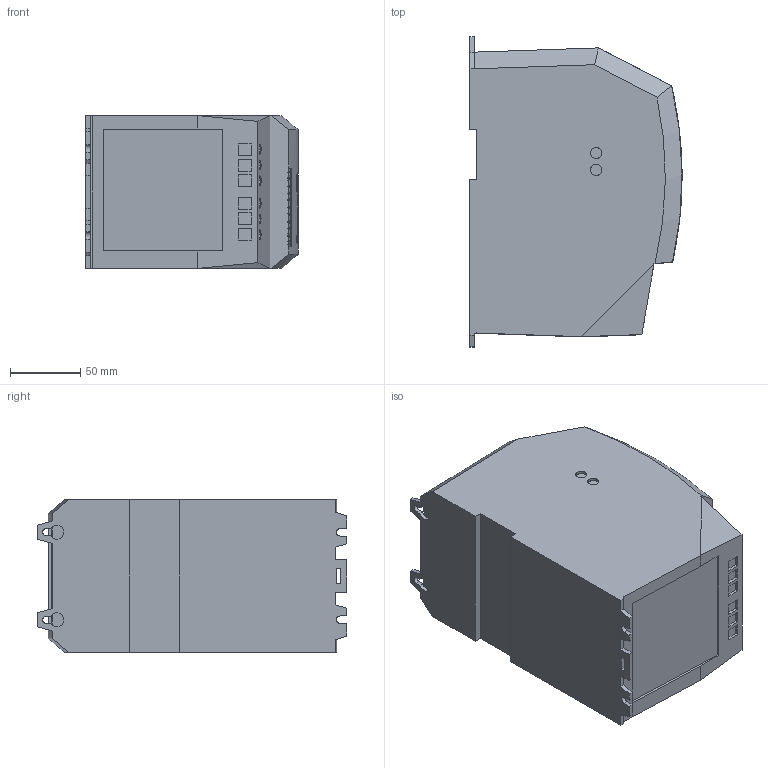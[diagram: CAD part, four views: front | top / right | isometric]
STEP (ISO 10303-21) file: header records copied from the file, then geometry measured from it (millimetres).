
FILE_DESCRIPTION (( 'STEP AP214' ), '1' );
FILE_NAME ('E3 S2 STEP.STEP', '2017-08-15T08:28:47', ( '' ), ( '' ), 'SwSTEP 2.0', 'SolidWorks 2017', '' );
FILE_SCHEMA (( 'AUTOMOTIVE_DESIGN' ));
Length unit declared in the file: millimetre
Products named in the file (1): E3 S2 STEP
Bounding box: 151.29 x 221 x 109 mm (x, y, z)
Volume: 2984013.4 mm3; surface area: 133625.5 mm2
Topology: 1 solids, 1 shells, 741 faces, 1902 edges, 1262 vertices
Faces by surface type: plane 450, bspline 176, cylinder 112, cone 3
Entity records: 30714 total; most frequent: CARTESIAN_POINT 14220, ORIENTED_EDGE 3804, DIRECTION 2618, EDGE_CURVE 1902, VERTEX_POINT 1262, VECTOR 1234, LINE 1234, EDGE_LOOP 846
